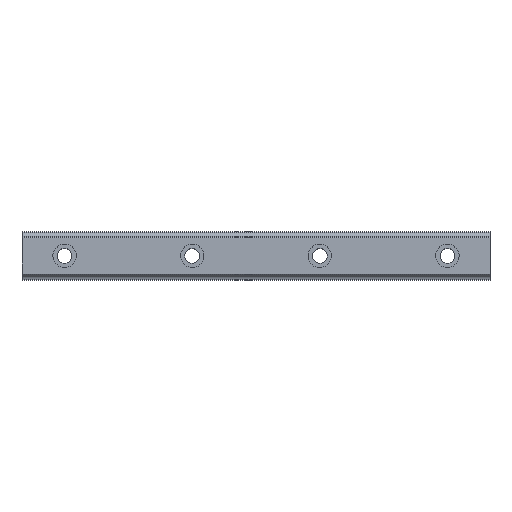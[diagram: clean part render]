
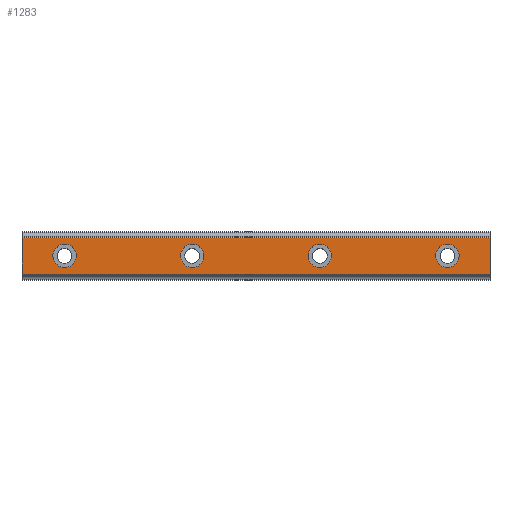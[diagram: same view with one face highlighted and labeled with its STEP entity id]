
A CAD part, top view. The second image highlights one B-rep face of the part: STEP entity #1283.
In plain terms, the highlighted planar face has unit normal (0, 0, 1).
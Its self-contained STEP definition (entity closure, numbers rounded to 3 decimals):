
#964=CARTESIAN_POINT('POINT67',(200.,-8.509,
   22.));
#965=VERTEX_POINT('VERTEX67',#964);
#972=CARTESIAN_POINT('POINT68',(-20.,-8.509,
   22.));
#973=VERTEX_POINT('VERTEX68',#972);
#974=CARTESIAN_POINT('POS113',(-20.,-8.509,
   22.));
#975=DIRECTION('DIR160',(1.,0.,0.));
#976=VECTOR('VEC66',#975,1.);
#977=LINE('STRAIGHT66',#974,#976);
#978=EDGE_CURVE('EDGE96',#973,#965,#977,.T.);
#1007=CARTESIAN_POINT('POINT69',(-20.,8.509,
   22.));
#1008=VERTEX_POINT('VERTEX69',#1007);
#1009=CARTESIAN_POINT('POS116',(-20.,-8.509,
   22.));
#1010=DIRECTION('DIR164',(0.,1.,0.));
#1011=VECTOR('VEC68',#1010,1.);
#1012=LINE('STRAIGHT68',#1009,#1011);
#1013=EDGE_CURVE('EDGE98',#973,#1008,#1012,.T.);
#1039=CARTESIAN_POINT('POINT70',(200.,8.509,
   22.));
#1040=VERTEX_POINT('VERTEX70',#1039);
#1049=CARTESIAN_POINT('POS120',(-20.,8.509,
   22.));
#1050=DIRECTION('DIR169',(1.,0.,0.));
#1051=VECTOR('VEC71',#1050,1.);
#1052=LINE('STRAIGHT71',#1049,#1051);
#1053=EDGE_CURVE('EDGE101',#1008,#1040,#1052,.T.);
#1076=CARTESIAN_POINT('POS122',(200.,-8.509,
   22.));
#1077=DIRECTION('DIR172',(0.,1.,0.));
#1078=VECTOR('VEC72',#1077,1.);
#1079=LINE('STRAIGHT72',#1076,#1078);
#1080=EDGE_CURVE('EDGE102',#965,#1040,#1079,.T.);
#1100=CARTESIAN_POINT('POINT71',(65.5,0.,
   22.));
#1101=VERTEX_POINT('VERTEX71',#1100);
#1109=CARTESIAN_POINT('POINT72',(54.5,0.,
   22.));
#1110=VERTEX_POINT('VERTEX72',#1109);
#1117=CARTESIAN_POINT('POS126',(60.,0.,22.)
   );
#1118=DIRECTION('DIR177',(0.,0.,-1.));
#1119=DIRECTION('DIR178',(1.,0.,0.));
#1120=AXIS2_PLACEMENT_3D('AXIS52',#1117,#1118,#1119);
#1121=CIRCLE('ELLIPSE20',#1120,5.5);
#1122=EDGE_CURVE('EDGE105',#1101,#1110,#1121,.T.);
#1133=EDGE_CURVE('EDGE106',#1110,#1101,#1121,.T.);
#1140=CARTESIAN_POINT('POINT73',(125.5,0.,
   22.));
#1141=VERTEX_POINT('VERTEX73',#1140);
#1149=CARTESIAN_POINT('POINT74',(114.5,0.,
   22.));
#1150=VERTEX_POINT('VERTEX74',#1149);
#1157=CARTESIAN_POINT('POS130',(120.,0.,22.)
   );
#1158=DIRECTION('DIR183',(0.,0.,-1.));
#1159=DIRECTION('DIR184',(1.,0.,0.));
#1160=AXIS2_PLACEMENT_3D('AXIS54',#1157,#1158,#1159);
#1161=CIRCLE('ELLIPSE21',#1160,5.5);
#1162=EDGE_CURVE('EDGE109',#1141,#1150,#1161,.T.);
#1173=EDGE_CURVE('EDGE110',#1150,#1141,#1161,.T.);
#1180=CARTESIAN_POINT('POINT75',(185.5,0.,
   22.));
#1181=VERTEX_POINT('VERTEX75',#1180);
#1189=CARTESIAN_POINT('POINT76',(174.5,0.,
   22.));
#1190=VERTEX_POINT('VERTEX76',#1189);
#1197=CARTESIAN_POINT('POS134',(180.,0.,22.)
   );
#1198=DIRECTION('DIR189',(0.,0.,-1.));
#1199=DIRECTION('DIR190',(1.,0.,0.));
#1200=AXIS2_PLACEMENT_3D('AXIS56',#1197,#1198,#1199);
#1201=CIRCLE('ELLIPSE22',#1200,5.5);
#1202=EDGE_CURVE('EDGE113',#1181,#1190,#1201,.T.);
#1213=EDGE_CURVE('EDGE114',#1190,#1181,#1201,.T.);
#1245=ORIENTED_EDGE('COEDGE221',*,*,#1213,.T.);
#1246=ORIENTED_EDGE('COEDGE222',*,*,#1202,.T.);
#1247=EDGE_LOOP('NONE',(#1245,#1246));
#1248=FACE_BOUND('LOOP1',#1247,.T.);
#1249=ORIENTED_EDGE('COEDGE223',*,*,#1173,.T.);
#1250=ORIENTED_EDGE('COEDGE224',*,*,#1162,.T.);
#1251=EDGE_LOOP('NONE',(#1249,#1250));
#1252=FACE_BOUND('LOOP1',#1251,.T.);
#1253=ORIENTED_EDGE('COEDGE225',*,*,#1133,.T.);
#1254=ORIENTED_EDGE('COEDGE226',*,*,#1122,.T.);
#1255=EDGE_LOOP('NONE',(#1253,#1254));
#1256=FACE_BOUND('LOOP1',#1255,.T.);
#1257=CARTESIAN_POINT('POINT79',(-5.5,0.,
   22.));
#1258=VERTEX_POINT('VERTEX79',#1257);
#1259=CARTESIAN_POINT('POINT80',(5.5,0.,
   22.));
#1260=VERTEX_POINT('VERTEX80',#1259);
#1261=CARTESIAN_POINT('POS138',(0.,0.,22.)
   );
#1262=DIRECTION('DIR197',(0.,0.,-1.));
#1263=DIRECTION('DIR198',(1.,0.,0.));
#1264=AXIS2_PLACEMENT_3D('AXIS60',#1261,#1262,#1263);
#1265=CIRCLE('ELLIPSE24',#1264,5.5);
#1266=EDGE_CURVE('EDGE117',#1258,#1260,#1265,.T.);
#1267=ORIENTED_EDGE('COEDGE227',*,*,#1266,.T.);
#1268=EDGE_CURVE('EDGE118',#1260,#1258,#1265,.T.);
#1269=ORIENTED_EDGE('COEDGE228',*,*,#1268,.T.);
#1270=EDGE_LOOP('NONE',(#1267,#1269));
#1271=FACE_BOUND('LOOP1',#1270,.T.);
#1272=ORIENTED_EDGE('COEDGE229',*,*,#1080,.T.);
#1273=ORIENTED_EDGE('COEDGE230',*,*,#1053,.F.);
#1274=ORIENTED_EDGE('COEDGE231',*,*,#1013,.F.);
#1275=ORIENTED_EDGE('COEDGE232',*,*,#978,.T.);
#1276=EDGE_LOOP('NONE',(#1272,#1273,#1274,#1275));
#1277=FACE_BOUND('LOOP1',#1276,.T.);
#1278=CARTESIAN_POINT('POS139',(-20.,-8.509,
   22.));
#1279=DIRECTION('DIR199',(0.,0.,1.));
#1280=DIRECTION('DIR200',(1.,0.,0.));
#1281=AXIS2_PLACEMENT_3D('AXIS61',#1278,#1279,#1280);
#1282=PLANE('PLANE26',#1281);
#1283=ADVANCED_FACE('FACE44',(#1248,#1252,#1256,#1271,#1277),#1282,.T.);
